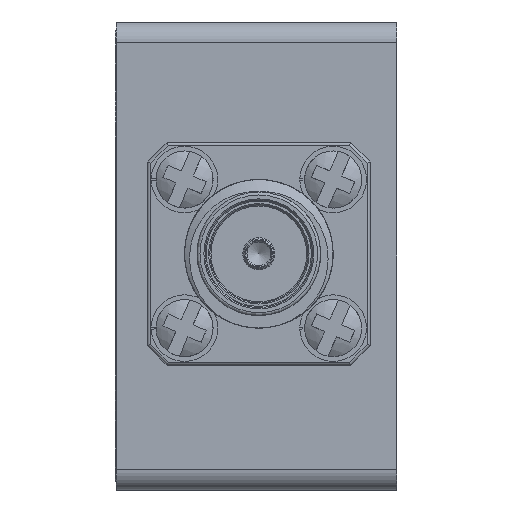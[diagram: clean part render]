
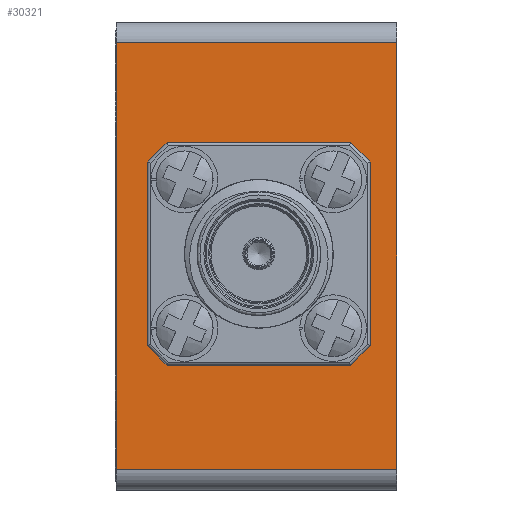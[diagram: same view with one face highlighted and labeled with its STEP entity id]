
A CAD part, left-side view. The second image highlights one B-rep face of the part: STEP entity #30321.
In plain terms, the highlighted planar face has unit normal (-1, 0, 0).
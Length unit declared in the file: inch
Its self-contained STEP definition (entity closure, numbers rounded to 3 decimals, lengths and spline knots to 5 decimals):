
#741 = VERTEX_POINT ( 'NONE', #24313 ) ;
#3405 = CARTESIAN_POINT ( 'NONE',  ( -1.575, 0.23622, 0.3587 ) ) ;
#6432 = VECTOR ( 'NONE', #25682, 39.37008 ) ;
#7327 = DIRECTION ( 'NONE',  ( 0., -1., 0. ) ) ;
#8386 = VECTOR ( 'NONE', #7327, 39.37008 ) ;
#8682 = DIRECTION ( 'NONE',  ( 0., -1., 0. ) ) ;
#8784 = ORIENTED_EDGE ( 'NONE', *, *, #27122, .T. ) ;
#9135 = ORIENTED_EDGE ( 'NONE', *, *, #27290, .F. ) ;
#11155 = CARTESIAN_POINT ( 'NONE',  ( -1.575, 0.23622, -0.3587 ) ) ;
#11420 = DIRECTION ( 'NONE',  ( 0., 0., 1. ) ) ;
#12480 = CARTESIAN_POINT ( 'NONE',  ( -1.575, 0.23622, -0.3587 ) ) ;
#12580 = LINE ( 'NONE', #15240, #6432 ) ;
#12764 = CARTESIAN_POINT ( 'NONE',  ( -1.575, -0.23622, -0.3587 ) ) ;
#15152 = DIRECTION ( 'NONE',  ( 0., 0., -1. ) ) ;
#15240 = CARTESIAN_POINT ( 'NONE',  ( -1.575, -0.23622, 0.3587 ) ) ;
#18461 = AXIS2_PLACEMENT_3D ( 'NONE', #27430, #30266, #15152 ) ;
#18861 = VERTEX_POINT ( 'NONE', #11155 ) ;
#19178 = PLANE ( 'NONE',  #18461 ) ;
#19229 = VECTOR ( 'NONE', #8682, 39.37008 ) ;
#19602 = VERTEX_POINT ( 'NONE', #23830 ) ;
#20113 = VERTEX_POINT ( 'NONE', #12764 ) ;
#20982 = ORIENTED_EDGE ( 'NONE', *, *, #24097, .T. ) ;
#23562 = LINE ( 'NONE', #3405, #26078 ) ;
#23830 = CARTESIAN_POINT ( 'NONE',  ( -1.575, -0.23622, 0.3587 ) ) ;
#24097 = EDGE_CURVE ( 'NONE', #18861, #20113, #32450, .T. ) ;
#24313 = CARTESIAN_POINT ( 'NONE',  ( -1.575, 0.23622, 0.3587 ) ) ;
#24823 = ORIENTED_EDGE ( 'NONE', *, *, #26861, .F. ) ;
#25682 = DIRECTION ( 'NONE',  ( 0., 0., 1. ) ) ;
#26078 = VECTOR ( 'NONE', #11420, 39.37008 ) ;
#26272 = LINE ( 'NONE', #26443, #19229 ) ;
#26443 = CARTESIAN_POINT ( 'NONE',  ( -1.575, 0.23622, 0.3587 ) ) ;
#26458 = FACE_OUTER_BOUND ( 'NONE', #29776, .T. ) ;
#26861 = EDGE_CURVE ( 'NONE', #18861, #741, #23562, .T. ) ;
#27122 = EDGE_CURVE ( 'NONE', #20113, #19602, #12580, .T. ) ;
#27290 = EDGE_CURVE ( 'NONE', #741, #19602, #26272, .T. ) ;
#27430 = CARTESIAN_POINT ( 'NONE',  ( -1.575, 0.23622, 0.3587 ) ) ;
#29776 = EDGE_LOOP ( 'NONE', ( #8784, #9135, #24823, #20982 ) ) ;
#30266 = DIRECTION ( 'NONE',  ( 1., 0., 0. ) ) ;
#30321 = ADVANCED_FACE ( 'NONE', ( #26458 ), #19178, .F. ) ;
#32450 = LINE ( 'NONE', #12480, #8386 ) ;
